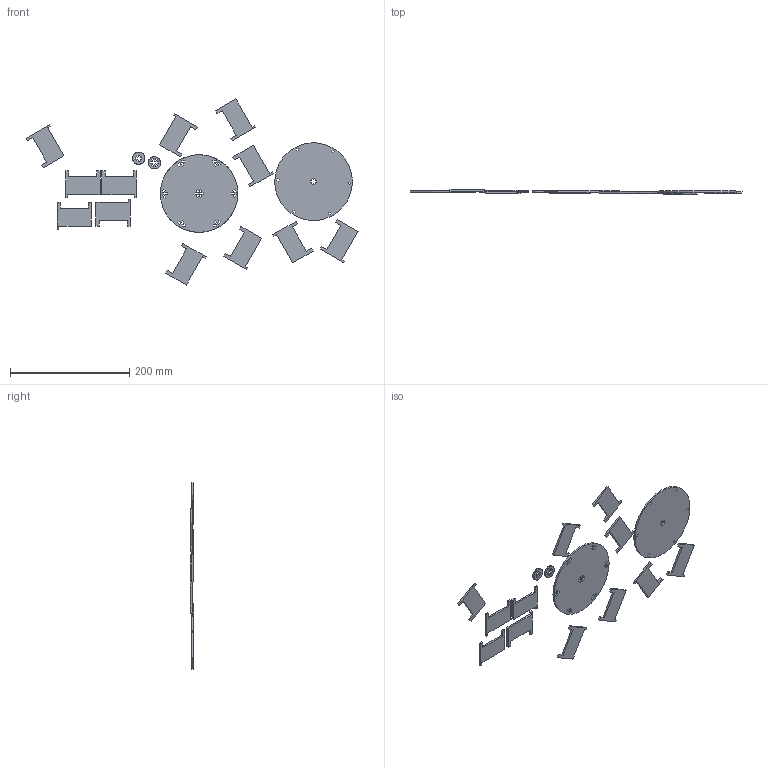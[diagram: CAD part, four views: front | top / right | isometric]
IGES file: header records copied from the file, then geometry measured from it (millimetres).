
Global section: file name: 1bf6603a-9418-41e0-a8b6-402d21e129fa; native system: unknown; preprocessor: unknown; author: unknown; organization: unknown; date: 20170620.143154; units: millimetre
Bounding box: 556.28 x 6.58 x 311.72 mm (x, y, z)
Volume: 146222.9 mm3; surface area: 110135.9 mm2
Topology: 17 solids, 17 shells, 344 faces, 931 edges, 621 vertices
Faces by surface type: bspline 344
